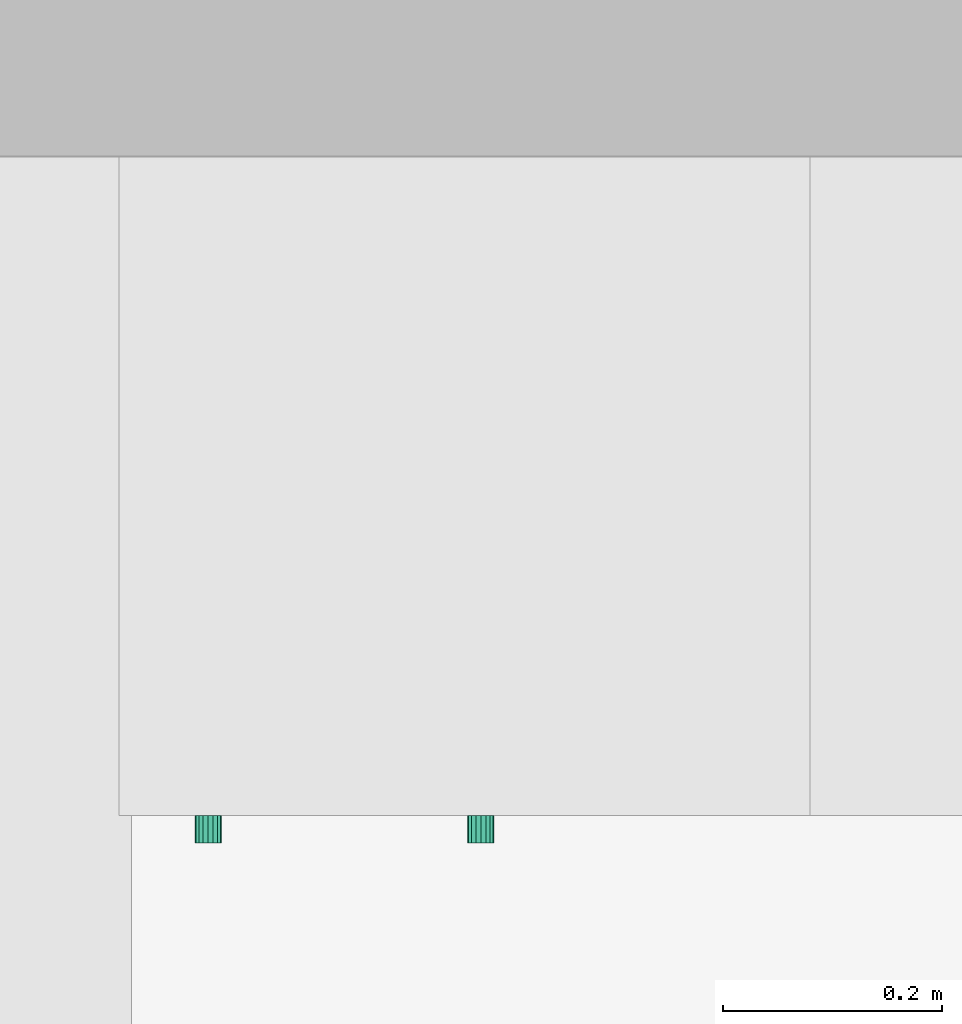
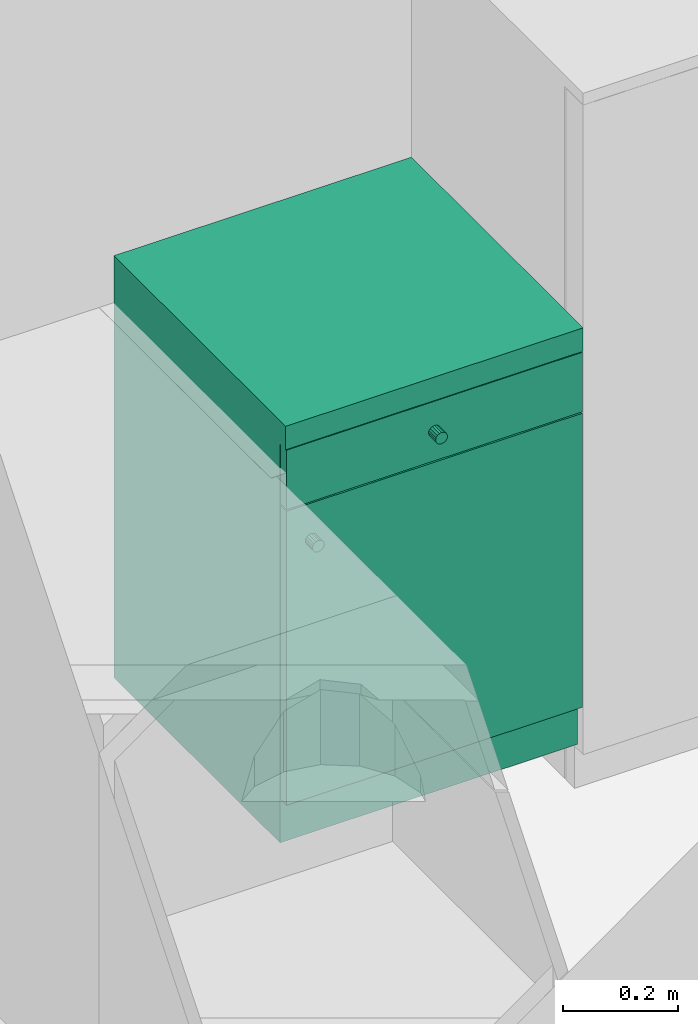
# One storey, part 48 of 172: 1 flow terminal.
"""IFC2X3 building model written with IfcOpenShell, lengths in millimetres."""

from ifc_helpers import new_model, entity, si_unit, converted_unit, money_unit, direction, frame, origin_with_axes, place, context, subcontext, project, spatial, faceted_brep, source, transform, mapped, material, material_list, type_object, element, save


model = new_model("IFC2X3")

# Units and contexts
model_context = context("Model", 3, precision=1e-05, world=origin_with_axes(), true_north=direction((0.0, 1.0)))
body_context = subcontext(model_context, "Body", "Model", "MODEL_VIEW")
ifc_project = project(units=[si_unit("LENGTHUNIT", "METRE", prefix="MILLI"), si_unit("AREAUNIT", "SQUARE_METRE"), si_unit("VOLUMEUNIT", "CUBIC_METRE"), converted_unit("PLANEANGLEUNIT", "DEGREE", entity("IfcPlaneAngleMeasure", 0.0174532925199), si_unit("PLANEANGLEUNIT", "RADIAN"), dimensions=[0, 0, 0, 0, 0, 0, 0]), si_unit("SOLIDANGLEUNIT", "STERADIAN"), money_unit("USD"), converted_unit("TIMEUNIT", "Year", entity("IfcTimeMeasure", 31556926.0), si_unit("TIMEUNIT", "SECOND"), dimensions=[0, 0, 0, 0, 0, 0, 0]), si_unit("MASSUNIT", "GRAM"), si_unit("THERMODYNAMICTEMPERATUREUNIT", "DEGREE_CELSIUS"), si_unit("LUMINOUSINTENSITYUNIT", "LUMEN")], contexts=[model_context])

# Site, building, storey
site_placement = place(None, origin_with_axes())
site = spatial("IfcSite", under=ifc_project, at=site_placement, Name="Site", CompositionType="ELEMENT")
building_placement = place(site_placement, origin_with_axes())
building = spatial("IfcBuilding", under=site, at=building_placement, Name="Building", CompositionType="ELEMENT")
storey_placement = place(building_placement, frame((0.0, 0.0, 3200.0), z_axis=(0.0, 0.0, 1.0), x_axis=(1.0, 0.0, 0.0)))
storey = spatial("IfcBuildingStorey", under=building, at=storey_placement, Name="3KORRUS", CompositionType="ELEMENT", Elevation=3200.0)

# Flow terminal
ifc_material = material(Name="Background")
ifc_material_list = material_list([ifc_material])
sanitary_terminal_type = type_object("IfcSanitaryTerminalType", Name="Cabinet Base Single Door 19", PredefinedType="SINK")
shared_shape = source(origin_with_axes(), body_context, "Body", "Brep", [
    faceted_brep([(-20.0, 20.0, 710.0), (-20.0, 20.0, 730.0), (-580.0, 20.0, 730.0), (-580.0, 20.0, 710.0), (-20.0, 580.0, 710.0), (-20.0, 580.0, 730.0), (-580.0, 580.0, 730.0), (-580.0, 580.0, 710.0)], [[[0, 1, 2, 3]], [[4, 5, 1, 0]], [[1, 5, 6, 2]], [[3, 2, 6, 7]], [[0, 3, 7, 4]], [[7, 6, 5, 4]]]),
    faceted_brep([(0.0, 20.0, 0.0), (0.0, 20.0, 90.0), (-600.0, 20.0, 90.0), (-600.0, 20.0, 0.0), (0.0, 600.0, 0.0), (0.0, 600.0, 90.0), (-600.0, 600.0, 90.0), (-600.0, 600.0, 0.0)], [[[0, 1, 2, 3]], [[4, 5, 1, 0]], [[1, 5, 6, 2]], [[3, 2, 6, 7]], [[0, 3, 7, 4]], [[7, 6, 5, 4]]]),
    faceted_brep([(0.0, 20.0, 830.0), (0.0, 20.0, 850.0), (-20.0, 20.0, 850.0), (-20.0, 20.0, 830.0), (0.0, 600.0, 830.0), (0.0, 600.0, 850.0), (-20.0, 600.0, 850.0), (-580.0, 600.0, 850.0), (-600.0, 600.0, 850.0), (-600.0, 20.0, 850.0), (-580.0, 20.0, 850.0), (-580.0, 20.0, 830.0), (-600.0, 20.0, 830.0), (-600.0, 600.0, 830.0), (-580.0, 600.0, 830.0), (-20.0, 600.0, 830.0)], [[[0, 1, 2, 3]], [[4, 5, 1, 0]], [[1, 5, 6, 7, 8, 9, 10, 2]], [[3, 2, 10, 11]], [[0, 3, 11, 12, 13, 14, 15, 4]], [[15, 6, 5, 4]], [[14, 7, 6, 15]], [[13, 8, 7, 14]], [[12, 9, 8, 13]], [[11, 10, 9, 12]]]),
    faceted_brep([(0.0, 20.0, 90.0), (0.0, 20.0, 110.0), (-20.0, 20.0, 110.0), (-20.0, 20.0, 90.0), (0.0, 600.0, 90.0), (0.0, 600.0, 110.0), (-20.0, 600.0, 110.0), (-580.0, 600.0, 110.0), (-600.0, 600.0, 110.0), (-600.0, 20.0, 110.0), (-580.0, 20.0, 110.0), (-580.0, 20.0, 90.0), (-600.0, 20.0, 90.0), (-600.0, 600.0, 90.0), (-580.0, 600.0, 90.0), (-20.0, 600.0, 90.0)], [[[0, 1, 2, 3]], [[4, 5, 1, 0]], [[1, 5, 6, 7, 8, 9, 10, 2]], [[3, 2, 10, 11]], [[0, 3, 11, 12, 13, 14, 15, 4]], [[15, 6, 5, 4]], [[14, 7, 6, 15]], [[13, 8, 7, 14]], [[12, 9, 8, 13]], [[11, 10, 9, 12]]]),
    faceted_brep([(0.0, 20.0, 110.0), (0.0, 20.0, 830.0), (-20.0, 20.0, 830.0), (-20.0, 20.0, 110.0), (0.0, 600.0, 110.0), (0.0, 600.0, 830.0), (-600.0, 600.0, 830.0), (-600.0, 20.0, 830.0), (-580.0, 20.0, 830.0), (-580.0, 580.0, 830.0), (-20.0, 580.0, 830.0), (-20.0, 580.0, 110.0), (-580.0, 580.0, 110.0), (-580.0, 20.0, 110.0), (-600.0, 20.0, 110.0), (-600.0, 600.0, 110.0)], [[[0, 1, 2, 3]], [[4, 5, 1, 0]], [[1, 5, 6, 7, 8, 9, 10, 2]], [[3, 2, 10, 11]], [[0, 3, 11, 12, 13, 14, 15, 4]], [[15, 6, 5, 4]], [[14, 7, 6, 15]], [[13, 8, 7, 14]], [[12, 9, 8, 13]], [[11, 10, 9, 12]]]),
    faceted_brep([(-580.0, 20.0, 385.0), (-580.0, 20.0, 405.0), (-580.0, 580.0, 405.0), (-580.0, 580.0, 385.0), (-20.0, 20.0, 385.0), (-20.0, 20.0, 405.0), (-20.0, 580.0, 405.0), (-20.0, 580.0, 385.0)], [[[0, 1, 2, 3]], [[4, 5, 1, 0]], [[1, 5, 6, 2]], [[3, 2, 6, 7]], [[0, 3, 7, 4]], [[7, 6, 5, 4]]]),
    faceted_brep([(0.0, 0.0, 850.0), (0.0, 0.0, 900.0), (-600.0, 0.0, 900.0), (-600.0, 0.0, 850.0), (0.0, 600.0, 850.0), (0.0, 600.0, 900.0), (-600.0, 600.0, 900.0), (-600.0, 600.0, 850.0)], [[[0, 1, 2, 3]], [[4, 5, 1, 0]], [[1, 5, 6, 2]], [[3, 2, 6, 7]], [[0, 3, 7, 4]], [[7, 6, 5, 4]]]),
    faceted_brep([(-1.5, 20.0, 721.5), (-1.5, 0.0, 721.5), (-598.5, 0.0, 721.5), (-598.5, 20.0, 721.5), (-1.5, 20.0, 848.5), (-1.5, 0.0, 848.5), (-598.5, 0.0, 848.5), (-598.5, 20.0, 848.5)], [[[0, 1, 2, 3]], [[4, 5, 1, 0]], [[1, 5, 6, 2]], [[3, 2, 6, 7]], [[0, 3, 7, 4]], [[7, 6, 5, 4]]]),
    faceted_brep([(-295.408, 0.0, 773.913), (-300.0, 0.0, 773.0), (-304.592, 0.0, 773.913), (-308.485, 0.0, 776.515), (-311.087, 0.0, 780.408), (-312.0, 0.0, 785.0), (-311.087, 0.0, 789.592), (-308.485, 0.0, 793.485), (-304.592, 0.0, 796.087), (-300.0, 0.0, 797.0), (-295.408, 0.0, 796.087), (-291.515, 0.0, 793.485), (-288.913, 0.0, 789.592), (-288.0, 0.0, 785.0), (-288.913, 0.0, 780.408), (-291.515, 0.0, 776.515), (-295.408, -25.0, 773.913), (-300.0, -25.0, 773.0), (-304.592, -25.0, 773.913), (-308.485, -25.0, 776.515), (-311.087, -25.0, 780.408), (-312.0, -25.0, 785.0), (-311.087, -25.0, 789.592), (-308.485, -25.0, 793.485), (-304.592, -25.0, 796.087), (-300.0, -25.0, 797.0), (-295.408, -25.0, 796.087), (-291.515, -25.0, 793.485), (-288.913, -25.0, 789.592), (-288.0, -25.0, 785.0), (-288.913, -25.0, 780.408), (-291.515, -25.0, 776.515)], [[[0, 1, 2, 3, 4, 5, 6, 7, 8, 9, 10, 11, 12, 13, 14, 15]], [[0, 16, 17, 1]], [[1, 17, 18, 2]], [[2, 18, 19, 3]], [[3, 19, 20, 4]], [[4, 20, 21, 5]], [[5, 21, 22, 6]], [[6, 22, 23, 7]], [[7, 23, 24, 8]], [[8, 24, 25, 9]], [[9, 25, 26, 10]], [[10, 26, 27, 11]], [[11, 27, 28, 12]], [[12, 28, 29, 13]], [[13, 29, 30, 14]], [[14, 30, 31, 15]], [[15, 31, 16, 0]], [[16, 31, 30, 29, 28, 27, 26, 25, 24, 23, 22, 21, 20, 19, 18, 17]]]),
    faceted_brep([(-1.5, 20.0, 91.5), (-1.5, 0.0, 91.5), (-598.5, 0.0, 91.5), (-598.5, 20.0, 91.5), (-1.5, 20.0, 718.5), (-1.5, 0.0, 718.5), (-598.5, 0.0, 718.5), (-598.5, 20.0, 718.5)], [[[0, 1, 2, 3]], [[4, 5, 1, 0]], [[1, 5, 6, 2]], [[3, 2, 6, 7]], [[0, 3, 7, 4]], [[7, 6, 5, 4]]]),
    faceted_brep([(-559.587, 0.0, 636.908), (-560.5, 0.0, 641.5), (-559.587, 0.0, 646.092), (-556.985, 0.0, 649.985), (-553.092, 0.0, 652.587), (-548.5, 0.0, 653.5), (-543.908, 0.0, 652.587), (-540.015, 0.0, 649.985), (-537.413, 0.0, 646.092), (-536.5, 0.0, 641.5), (-537.413, 0.0, 636.908), (-540.015, 0.0, 633.015), (-543.908, 0.0, 630.413), (-548.5, 0.0, 629.5), (-553.092, 0.0, 630.413), (-556.985, 0.0, 633.015), (-559.587, -25.0, 636.908), (-560.5, -25.0, 641.5), (-559.587, -25.0, 646.092), (-556.985, -25.0, 649.985), (-553.092, -25.0, 652.587), (-548.5, -25.0, 653.5), (-543.908, -25.0, 652.587), (-540.015, -25.0, 649.985), (-537.413, -25.0, 646.092), (-536.5, -25.0, 641.5), (-537.413, -25.0, 636.908), (-540.015, -25.0, 633.015), (-543.908, -25.0, 630.413), (-548.5, -25.0, 629.5), (-553.092, -25.0, 630.413), (-556.985, -25.0, 633.015)], [[[0, 1, 2, 3, 4, 5, 6, 7, 8, 9, 10, 11, 12, 13, 14, 15]], [[0, 16, 17, 1]], [[1, 17, 18, 2]], [[2, 18, 19, 3]], [[3, 19, 20, 4]], [[4, 20, 21, 5]], [[5, 21, 22, 6]], [[6, 22, 23, 7]], [[7, 23, 24, 8]], [[8, 24, 25, 9]], [[9, 25, 26, 10]], [[10, 26, 27, 11]], [[11, 27, 28, 12]], [[12, 28, 29, 13]], [[13, 29, 30, 14]], [[14, 30, 31, 15]], [[15, 31, 16, 0]], [[16, 31, 30, 29, 28, 27, 26, 25, 24, 23, 22, 21, 20, 19, 18, 17]]]),
])
flow_terminal_placement = place(storey_placement, frame((-40772.0319183, -9967.37850445, 100.0), z_axis=(0.0, 0.0, 1.0), x_axis=(1.0, 0.0, 0.0)))
element("IfcFlowTerminal", 1, at=flow_terminal_placement, inside=storey, type_object=sanitary_terminal_type, material=ifc_material_list, Name="FU - 007", context=body_context, shape_type="MappedRepresentation", body=[
    mapped(shared_shape, transform((0.0, 0.0, 0.0))),
])

save(model, "model.ifc")
